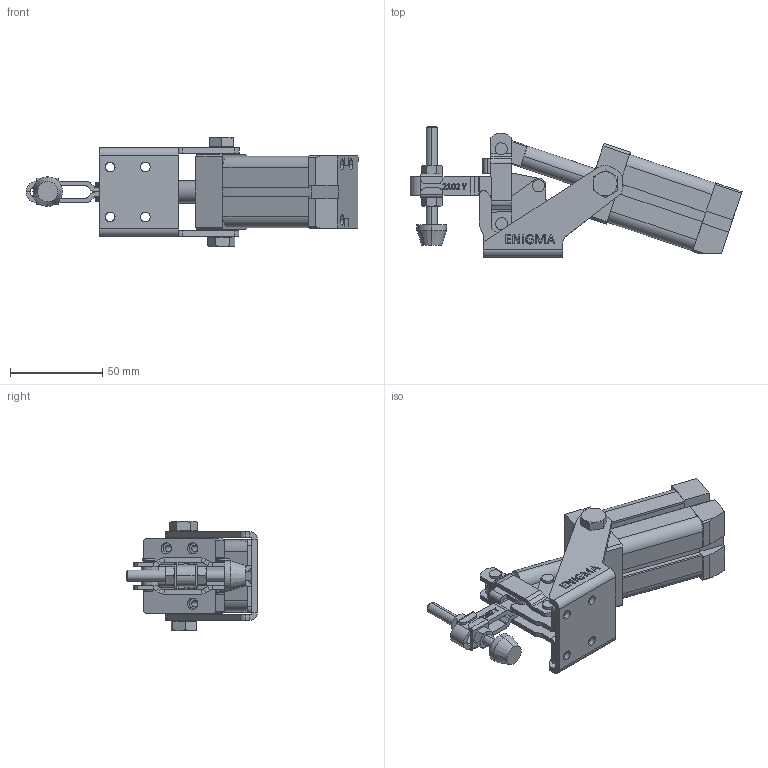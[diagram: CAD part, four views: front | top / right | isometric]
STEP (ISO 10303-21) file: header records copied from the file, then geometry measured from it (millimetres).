
FILE_DESCRIPTION (( 'STEP AP214' ), '1' );
FILE_NAME ('2102_Y.STEP', '2020-08-05T05:15:36', ( '' ), ( '' ), 'SwSTEP 2.0', 'SolidWorks 2019', '' );
FILE_SCHEMA (( 'AUTOMOTIVE_DESIGN' ));
Length unit declared in the file: millimetre
Products named in the file (26): M6 Aský; SPC 25 ARKA KAPAK; 1202_baský kolu; 1802_Hareket kolu; 1802_SPC 25x35,5; 2002_SPC Ø12 MÝL; M6 Baský Grubu; 1802_P_Mekanizma; Pim_4x17_5; 1802_clamp baðlantý plakasý; 2002_P_Mafsal; Pim_4x12_5; SPC 25 烰 KAPAK; PK ﾘ25  BORU; M6 Baský; 12x14x10 CSB BURÇ; Burc_7x4x10; 1202_UA_Gövde; K52-012  PU KE荅; M8x10xAA13; M6 Somun; Yarýklý Pim_4x20; DIN 916-M5x5 SETÝSKUR; ADM-025 MANYETÝKLÝ ORTA PÝSTON; 3x1  O-RING; 2102_Y
Assembly tree (32 placements, depth 4):
  2102_Y
    1802_P_Mekanizma
      1202_UA_Gövde
      1802_Hareket kolu  x2
      2002_P_Mafsal
      1202_baský kolu
      Pim_4x17_5  x2
      Pim_4x12_5  x2
      Yarýklý Pim_4x20
      Burc_7x4x10
      M6 Baský Grubu
        M6 Baský
        M6 Aský  x2
        M6 Somun  x2
      1802_clamp baðlantý plakasý
    1802_SPC 25x35,5
      SPC 25 ARKA KAPAK
      SPC 25 烰 KAPAK
      PK ﾘ25  BORU
      12x14x10 CSB BURÇ
      K52-012  PU KE荅
      3x1  O-RING  x2
      DIN 916-M5x5 SETÝSKUR
      2002_SPC Ø12 MÝL
      ADM-025 MANYETÝKLÝ ORTA PÝSTON
    M8x10xAA13  x2
Bounding box: 179.48 x 70.55 x 59 mm (x, y, z)
Volume: 116146.5 mm3; surface area: 81978.5 mm2
Topology: 31 solids, 37 shells, 1637 faces, 4054 edges, 2564 vertices
Faces by surface type: plane 794, cylinder 471, bspline 198, cone 132, torus 42
Entity records: 54639 total; most frequent: CARTESIAN_POINT 16994, ORIENTED_EDGE 7022, DIRECTION 6715, EDGE_CURVE 3511, AXIS2_PLACEMENT_3D 2342, VERTEX_POINT 2239, LINE 2031, VECTOR 2031
